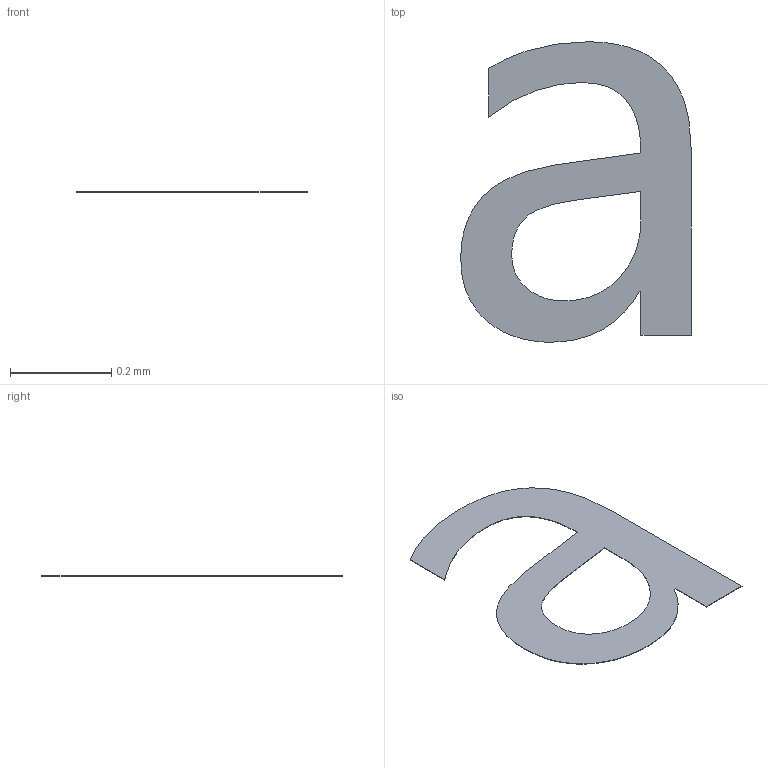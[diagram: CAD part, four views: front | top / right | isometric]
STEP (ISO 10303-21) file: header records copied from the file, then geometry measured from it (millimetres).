
FILE_DESCRIPTION(/* description */ ('STEP AP242 Edition 2','CAx-IF Rec.Pracs.---Representation and Presentation of Product Manufacturing Information (PMI)---4.0---2014-10-13','CAx-IF Rec.Pracs.---3D Tessellated Geometry---0.4---2014-09-14','2;1','CAx-IF Rec.Pracs.---User Defined Attributes---1.5---2016-08-15'),/* implementation_level */ '2;1');
FILE_NAME(/* name */ 'Assembly 1 - I2CLCD16X2~MODULE-TH_LCM1602K~nxQB',/* time_stamp */ '2026-04-02T09:55:15Z',/* author */ (''),/* organization */ (''),/* preprocessor_version */ 'ST-DEVELOPER v20',/* originating_system */ 'ONSHAPE BY PTC INC, 1.212',/* authorisation */ ' ');
FILE_SCHEMA (('AP242_MANAGED_MODEL_BASED_3D_ENGINEERING_MIM_LF { 1 0 10303 442 3 1 4 }'));
Length unit declared in the file: metre
Products named in the file (1): I2CLCD16X2~MODULE-TH_LCM1602K~nxQB
Bounding box: 0.46 x 0.59 x 0 mm (x, y, z)
Volume: 0 mm3; surface area: 0.3 mm2
Topology: 1 solids, 1 shells, 24 faces, 66 edges, 44 vertices
Faces by surface type: bspline 13, plane 10, cylinder 1
Entity records: 1025 total; most frequent: CARTESIAN_POINT 304, ORIENTED_EDGE 132, EDGE_CURVE 66, DIRECTION 66, VERTEX_POINT 44, LINE 38, VECTOR 38, B_SPLINE_CURVE_WITH_KNOTS 26
